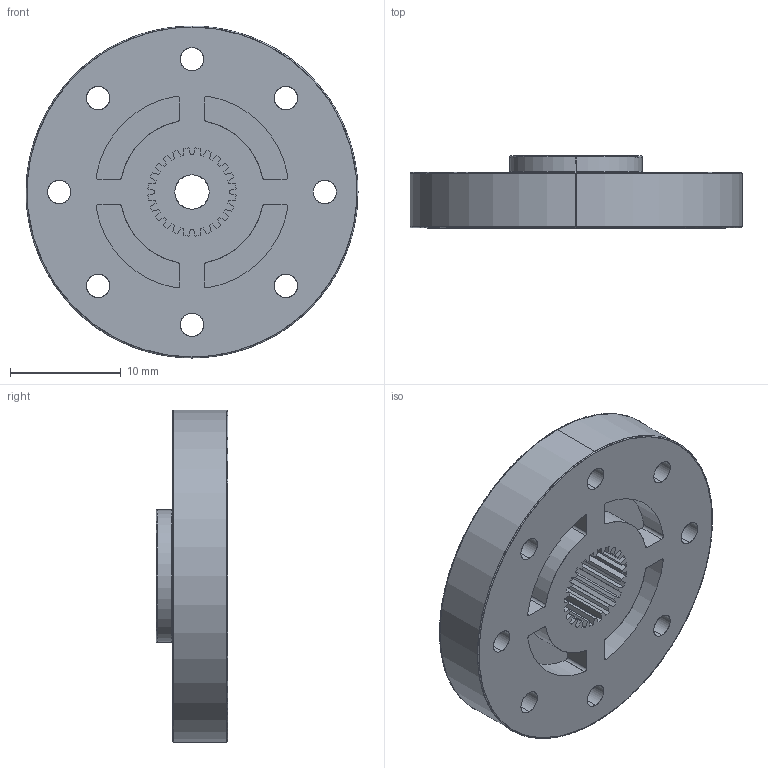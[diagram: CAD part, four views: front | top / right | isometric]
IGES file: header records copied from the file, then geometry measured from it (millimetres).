
Start section: SolidWorks IGES file using analytic representation for surfaces
Global section: file name: C:\Users\seb95\Mon projet\Technique\CAO\3D_import\DS51_Arm_Disc\DS51_Arm_Disc.IGS; native system: SolidWorks 2019; preprocessor: SolidWorks 2019; author: seb95; date: 230321.110114; units: millimetre
Bounding box: 30 x 6.5 x 30 mm (x, y, z)
Surface area: 2627.8 mm2 (no closed solid volume)
Topology: 0 solids, 0 shells, 170 faces, 1884 edges, 1884 vertices
Faces by surface type: bspline 98, revolution 72
